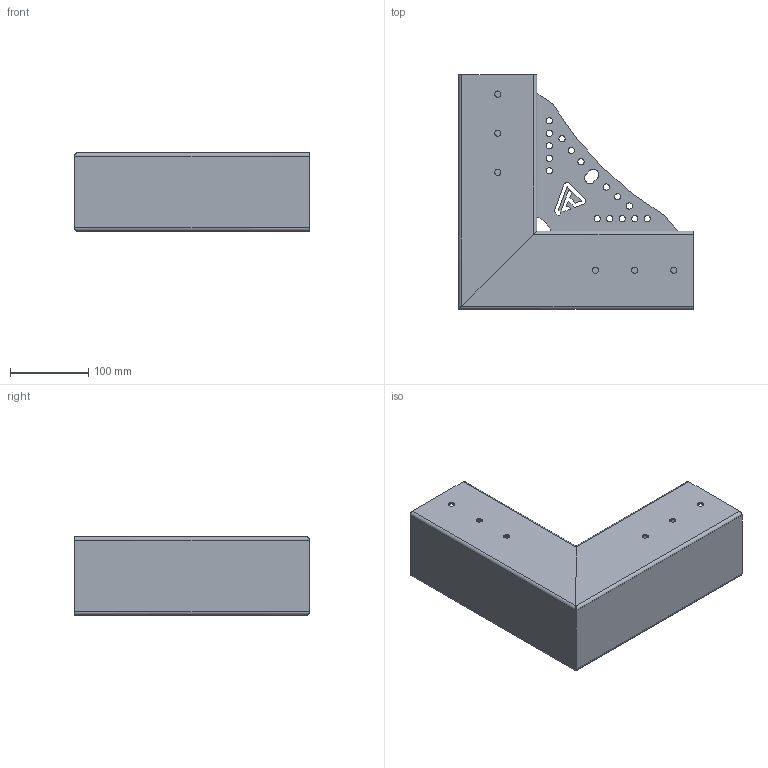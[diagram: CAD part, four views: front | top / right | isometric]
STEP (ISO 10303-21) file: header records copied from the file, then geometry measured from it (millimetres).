
FILE_DESCRIPTION(('STEP AP214'), '1');
FILE_NAME('ÄÓÎ ñáîðêà', '', ('UNSPECIFIED'), ('UNSPECIFIED'), 'C3D Converter', 'C3D Toolkit', '');
FILE_SCHEMA(('AUTOMOTIVE_DESIGN { 1 0 10303 214 3 1 1}'));
Length unit declared in the file: millimetre
Products named in the file (7): АКСЛ.298.200 СБ; АКСЛ.298.201; 0; 3D Узел_3; 3D Узел_2; АКСЛ.298.302; АКСЛ.298.302-01
Assembly tree (6 placements, depth 4):
  АКСЛ.298.200 СБ
    АКСЛ.298.201
      0
        3D Узел_3
        3D Узел_2
    АКСЛ.298.302
    АКСЛ.298.302-01
Bounding box: 300 x 300 x 100 mm (x, y, z)
Volume: 424927.6 mm3; surface area: 420132.7 mm2
Topology: 3 solids, 3 shells, 232 faces, 678 edges, 454 vertices
Faces by surface type: plane 184, cylinder 48
Full cylindrical faces by diameter (mm): 8 x28
Entity records: 9421 total; most frequent: CARTESIAN_POINT 1391, ORIENTED_EDGE 1300, DIRECTION 1192, EDGE_CURVE 650, LINE 554, VECTOR 554, VERTEX_POINT 452, EDGE_LOOP 324
